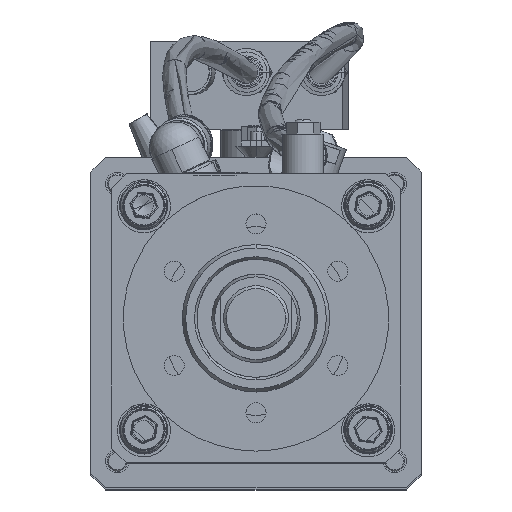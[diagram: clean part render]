
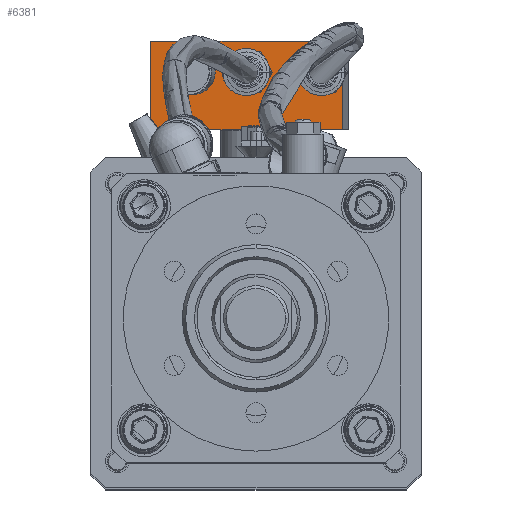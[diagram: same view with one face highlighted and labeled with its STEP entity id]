
A CAD part, top view. The second image highlights one B-rep face of the part: STEP entity #6381.
In plain terms, the highlighted planar face has unit normal (-0.049, 0, 0.999).
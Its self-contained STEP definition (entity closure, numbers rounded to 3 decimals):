
#153 = VECTOR ( 'NONE', #3843, 1000. ) ;
#346 = ORIENTED_EDGE ( 'NONE', *, *, #8500, .T. ) ;
#443 = DIRECTION ( 'NONE',  ( -0.049, 0., 0.999 ) ) ;
#449 = CARTESIAN_POINT ( 'NONE',  ( -21.284, 85.5, -143.97 ) ) ;
#523 = VERTEX_POINT ( 'NONE', #17843 ) ;
#663 = CIRCLE ( 'NONE', #9858, 5. ) ;
#790 = ORIENTED_EDGE ( 'NONE', *, *, #10553, .T. ) ;
#1054 = EDGE_LOOP ( 'NONE', ( #6338, #4735 ) ) ;
#1126 = VERTEX_POINT ( 'NONE', #17514 ) ;
#1128 = PLANE ( 'NONE',  #15808 ) ;
#1811 = LINE ( 'NONE', #14972, #153 ) ;
#1832 = CARTESIAN_POINT ( 'NONE',  ( -2.307, 85.5, -143.035 ) ) ;
#1867 = LINE ( 'NONE', #16272, #10679 ) ;
#2007 = DIRECTION ( 'NONE',  ( 0.999, 0., 0.049 ) ) ;
#2194 = VERTEX_POINT ( 'NONE', #15675 ) ;
#2529 = CARTESIAN_POINT ( 'NONE',  ( -17.121, 62.876, -143.765 ) ) ;
#2621 = DIRECTION ( 'NONE',  ( -0.999, 0., -0.049 ) ) ;
#2772 = ORIENTED_EDGE ( 'NONE', *, *, #13303, .T. ) ;
#2796 = AXIS2_PLACEMENT_3D ( 'NONE', #10116, #8816, #12786 ) ;
#2840 = CIRCLE ( 'NONE', #6403, 6. ) ;
#3334 = DIRECTION ( 'NONE',  ( -0.999, 0., -0.049 ) ) ;
#3843 = DIRECTION ( 'NONE',  ( 0., 1., 0. ) ) ;
#4045 = VERTEX_POINT ( 'NONE', #6368 ) ;
#4166 = DIRECTION ( 'NONE',  ( -0.999, 0., -0.049 ) ) ;
#4284 = FACE_BOUND ( 'NONE', #1054, .T. ) ;
#4626 = CARTESIAN_POINT ( 'NONE',  ( 28.156, 85.5, -141.534 ) ) ;
#4683 = VERTEX_POINT ( 'NONE', #14156 ) ;
#4735 = ORIENTED_EDGE ( 'NONE', *, *, #7021, .F. ) ;
#4892 = CARTESIAN_POINT ( 'NONE',  ( 29.262, 66., -141.479 ) ) ;
#5590 = EDGE_CURVE ( 'NONE', #10617, #12583, #663, .T. ) ;
#5772 = FACE_BOUND ( 'NONE', #14275, .T. ) ;
#6129 = DIRECTION ( 'NONE',  ( -0.049, 0., 0.999 ) ) ;
#6338 = ORIENTED_EDGE ( 'NONE', *, *, #6945, .F. ) ;
#6368 = CARTESIAN_POINT ( 'NONE',  ( 29.262, 66., -141.479 ) ) ;
#6381 = ADVANCED_FACE ( 'NONE', ( #9685, #4284, #15334, #5772 ), #1128, .T. ) ;
#6401 = ORIENTED_EDGE ( 'NONE', *, *, #16299, .F. ) ;
#6403 = AXIS2_PLACEMENT_3D ( 'NONE', #449, #6129, #14738 ) ;
#6568 = VERTEX_POINT ( 'NONE', #14392 ) ;
#6945 = EDGE_CURVE ( 'NONE', #4683, #2194, #12571, .T. ) ;
#7021 = EDGE_CURVE ( 'NONE', #2194, #4683, #10508, .T. ) ;
#7041 = DIRECTION ( 'NONE',  ( -0.049, 0., 0.999 ) ) ;
#7130 = CARTESIAN_POINT ( 'NONE',  ( -21.284, 85.5, -143.97 ) ) ;
#7791 = CARTESIAN_POINT ( 'NONE',  ( 23.162, 85.5, -141.78 ) ) ;
#7807 = CARTESIAN_POINT ( 'NONE',  ( 23.162, 85.5, -141.78 ) ) ;
#8038 = EDGE_LOOP ( 'NONE', ( #13587, #16256 ) ) ;
#8087 = ORIENTED_EDGE ( 'NONE', *, *, #8159, .F. ) ;
#8159 = EDGE_CURVE ( 'NONE', #9479, #16243, #2840, .T. ) ;
#8210 = EDGE_CURVE ( 'NONE', #12583, #10617, #13212, .T. ) ;
#8500 = EDGE_CURVE ( 'NONE', #4045, #1126, #1811, .T. ) ;
#8816 = DIRECTION ( 'NONE',  ( -0.049, 0., 0.999 ) ) ;
#9479 = VERTEX_POINT ( 'NONE', #17789 ) ;
#9685 = FACE_BOUND ( 'NONE', #8038, .T. ) ;
#9858 = AXIS2_PLACEMENT_3D ( 'NONE', #7807, #16428, #12245 ) ;
#9923 = AXIS2_PLACEMENT_3D ( 'NONE', #1832, #443, #14549 ) ;
#9953 = DIRECTION ( 'NONE',  ( -0.049, 0., 0.999 ) ) ;
#10116 = CARTESIAN_POINT ( 'NONE',  ( -2.307, 85.5, -143.035 ) ) ;
#10264 = AXIS2_PLACEMENT_3D ( 'NONE', #7130, #7041, #14255 ) ;
#10394 = EDGE_LOOP ( 'NONE', ( #346, #790, #2772, #15989 ) ) ;
#10424 = DIRECTION ( 'NONE',  ( 0., -1., 0. ) ) ;
#10508 = CIRCLE ( 'NONE', #2796, 5. ) ;
#10553 = EDGE_CURVE ( 'NONE', #1126, #523, #18283, .T. ) ;
#10617 = VERTEX_POINT ( 'NONE', #14538 ) ;
#10679 = VECTOR ( 'NONE', #10424, 1000. ) ;
#10815 = EDGE_CURVE ( 'NONE', #6568, #4045, #17605, .T. ) ;
#11225 = CARTESIAN_POINT ( 'NONE',  ( 29.262, 96., -141.479 ) ) ;
#12245 = DIRECTION ( 'NONE',  ( -0.999, 0., -0.049 ) ) ;
#12352 = VECTOR ( 'NONE', #4166, 1000. ) ;
#12571 = CIRCLE ( 'NONE', #9923, 5. ) ;
#12583 = VERTEX_POINT ( 'NONE', #4626 ) ;
#12786 = DIRECTION ( 'NONE',  ( -0.999, 0., -0.049 ) ) ;
#12896 = AXIS2_PLACEMENT_3D ( 'NONE', #7791, #17715, #3334 ) ;
#13212 = CIRCLE ( 'NONE', #12896, 5. ) ;
#13303 = EDGE_CURVE ( 'NONE', #523, #6568, #1867, .T. ) ;
#13587 = ORIENTED_EDGE ( 'NONE', *, *, #8210, .F. ) ;
#14156 = CARTESIAN_POINT ( 'NONE',  ( -7.301, 85.5, -143.281 ) ) ;
#14255 = DIRECTION ( 'NONE',  ( 0., 1., 0. ) ) ;
#14275 = EDGE_LOOP ( 'NONE', ( #8087, #6401 ) ) ;
#14392 = CARTESIAN_POINT ( 'NONE',  ( -35.659, 66., -144.678 ) ) ;
#14424 = VECTOR ( 'NONE', #2007, 1000. ) ;
#14538 = CARTESIAN_POINT ( 'NONE',  ( 18.168, 85.5, -142.026 ) ) ;
#14549 = DIRECTION ( 'NONE',  ( -0.999, 0., -0.049 ) ) ;
#14738 = DIRECTION ( 'NONE',  ( 0., 1., 0. ) ) ;
#14972 = CARTESIAN_POINT ( 'NONE',  ( 29.262, 66., -141.479 ) ) ;
#15285 = CIRCLE ( 'NONE', #10264, 6. ) ;
#15334 = FACE_OUTER_BOUND ( 'NONE', #10394, .T. ) ;
#15675 = CARTESIAN_POINT ( 'NONE',  ( 2.687, 85.5, -142.789 ) ) ;
#15808 = AXIS2_PLACEMENT_3D ( 'NONE', #2529, #9953, #2621 ) ;
#15989 = ORIENTED_EDGE ( 'NONE', *, *, #10815, .T. ) ;
#16243 = VERTEX_POINT ( 'NONE', #17620 ) ;
#16256 = ORIENTED_EDGE ( 'NONE', *, *, #5590, .F. ) ;
#16272 = CARTESIAN_POINT ( 'NONE',  ( -35.659, 66., -144.678 ) ) ;
#16299 = EDGE_CURVE ( 'NONE', #16243, #9479, #15285, .T. ) ;
#16428 = DIRECTION ( 'NONE',  ( -0.049, 0., 0.999 ) ) ;
#17514 = CARTESIAN_POINT ( 'NONE',  ( 29.262, 96., -141.479 ) ) ;
#17605 = LINE ( 'NONE', #4892, #14424 ) ;
#17620 = CARTESIAN_POINT ( 'NONE',  ( -21.284, 91.5, -143.97 ) ) ;
#17715 = DIRECTION ( 'NONE',  ( -0.049, 0., 0.999 ) ) ;
#17789 = CARTESIAN_POINT ( 'NONE',  ( -21.284, 79.5, -143.97 ) ) ;
#17843 = CARTESIAN_POINT ( 'NONE',  ( -35.659, 96., -144.678 ) ) ;
#18283 = LINE ( 'NONE', #11225, #12352 ) ;
